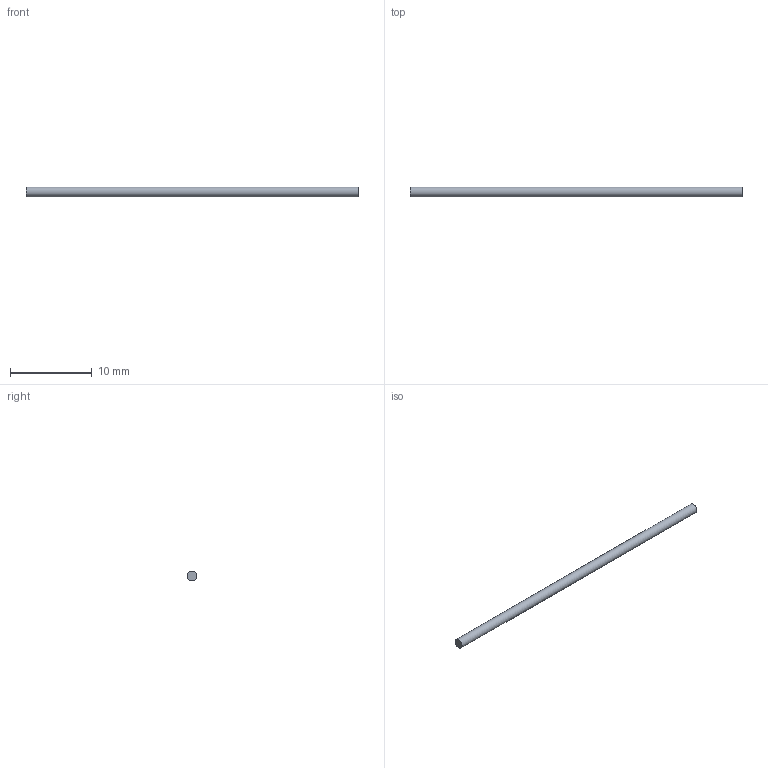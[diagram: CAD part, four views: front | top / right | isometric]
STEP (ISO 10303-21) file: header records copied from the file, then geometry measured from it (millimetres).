
FILE_DESCRIPTION(('Open CASCADE Model'),'2;1');
FILE_NAME('Open CASCADE Shape Model','2026-10-25T05:18:02',('Author'),( 'Open CASCADE'),'Open CASCADE STEP processor 7.9','Open CASCADE 7.9' ,'Unknown');
FILE_SCHEMA(('AUTOMOTIVE_DESIGN { 1 0 10303 214 1 1 1 1 }'));
Length unit declared in the file: millimetre
Products named in the file (1): Open CASCADE STEP translator 7.9 143
Bounding box: 40.5 x 1.2 x 1.2 mm (x, y, z)
Volume: 45.8 mm3; surface area: 154.9 mm2
Topology: 1 solids, 1 shells, 3 faces, 3 edges, 2 vertices
Faces by surface type: plane 2, cylinder 1
Full cylindrical faces by diameter (mm): 1.2 x1
Entity records: 108 total; most frequent: DIRECTION 19, CARTESIAN_POINT 15, AXIS2_PLACEMENT_3D 6, ORIENTED_EDGE 6, PCURVE 6, DEFINITIONAL_REPRESENTATION 6, LINE 5, VECTOR 5
